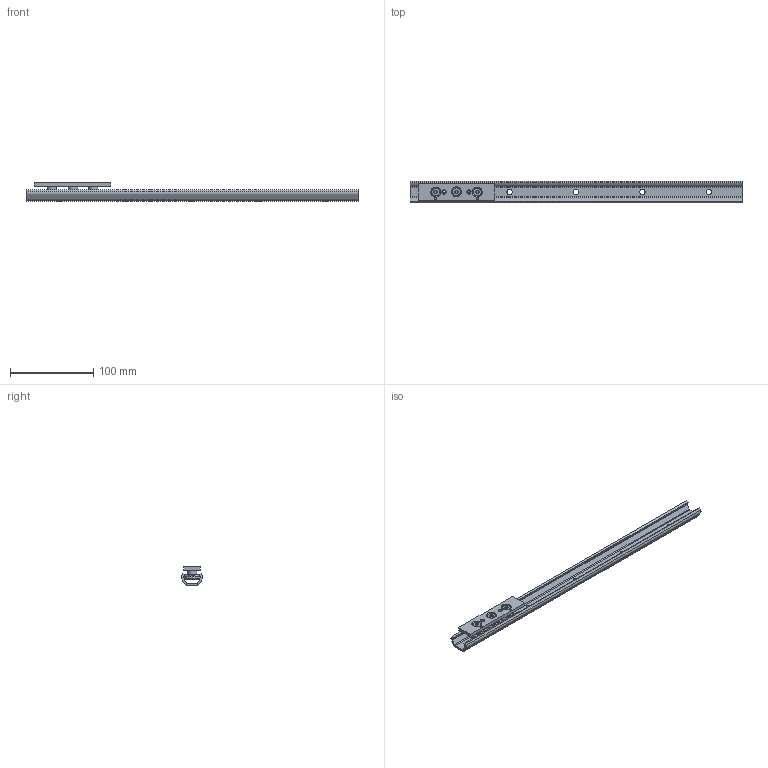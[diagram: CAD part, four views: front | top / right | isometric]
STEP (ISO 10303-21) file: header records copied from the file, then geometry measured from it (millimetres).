
FILE_DESCRIPTION( ( 'STEP AP214' ), '1' );
FILE_NAME( 'p:/temp/worker_4/temp/exporttempdir_3272_84_Q95se/format_1/TEN26-0400-CEN26-92.stp', '2020-05-08T15:38:57', ( 'License CC BY-ND 4.0' ), ( 'CADENAS' ), ' ', 'PARTsolutions', ' ' );
FILE_SCHEMA( ( 'AUTOMOTIVE_DESIGN { 1 0 10303 214 1 1 1 1 }' ) );
Length unit declared in the file: millimetre
Products named in the file (6): TEN26-0400-CEN26-92; _TEN 26-400; _CEN26-92_1; _RLN26(11.2_M5); _RLA26(11.2_M5); _LAN-26
Assembly tree (8 placements, depth 2):
  TEN26-0400-CEN26-92
    _TEN 26-400
    _CEN26-92_1
    _RLN26(11.2_M5)  x2
    _RLA26(11.2_M5)
    _LAN-26  x3
Bounding box: 400 x 26 x 22 mm (x, y, z)
Volume: 55014.7 mm3; surface area: 44923.7 mm2
Topology: 8 solids, 8 shells, 238 faces, 516 edges, 321 vertices
Faces by surface type: plane 131, cylinder 74, cone 24, bspline 9
Full cylindrical faces by diameter (mm): 2.5 x2, 4.134 x5, 4.5 x3, 5 x6, 6.5 x5, 9.3 x3, 11.2 x6, 11.6 x6, 15.7 x6, 16.7 x6
Entity records: 5468 total; most frequent: CARTESIAN_POINT 810, DIRECTION 742, ORIENTED_EDGE 554, AXIS2_PLACEMENT_3D 307, EDGE_CURVE 277, EDGE_LOOP 252, VERTEX_POINT 207, FACE_OUTER_BOUND 194
